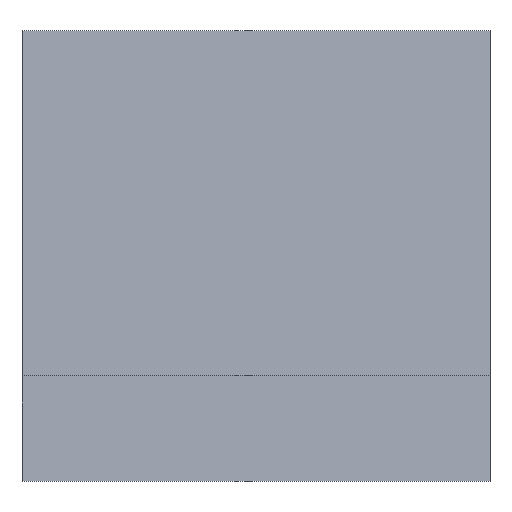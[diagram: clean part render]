
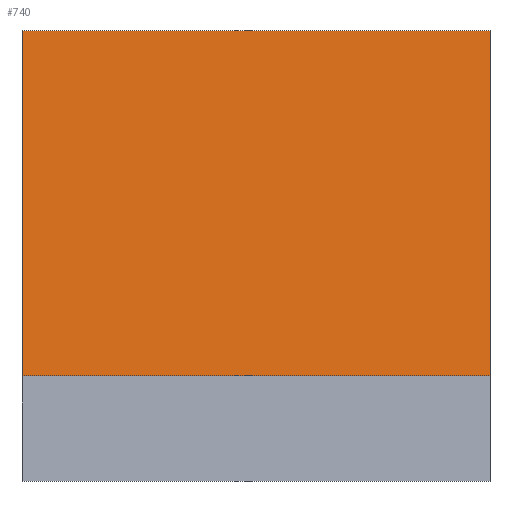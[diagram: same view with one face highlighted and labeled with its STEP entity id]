
A CAD part, front view. The second image highlights one B-rep face of the part: STEP entity #740.
In plain terms, the highlighted planar face has unit normal (0, -0.995, 0.104).
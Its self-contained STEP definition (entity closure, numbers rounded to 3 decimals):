
#32 = PLANE('',#33);
#33 = AXIS2_PLACEMENT_3D('',#34,#35,#36);
#34 = CARTESIAN_POINT('',(1.,-0.443,19.75));
#35 = DIRECTION('',(1.,-0.,-0.));
#36 = DIRECTION('',(0.,0.,-1.));
#113 = VERTEX_POINT('',#114);
#114 = CARTESIAN_POINT('',(1.,-5.169,-14.75));
#128 = PLANE('',#129);
#129 = AXIS2_PLACEMENT_3D('',#130,#131,#132);
#130 = CARTESIAN_POINT('',(1.,-5.669,-14.75));
#131 = DIRECTION('',(-0.,-0.,-1.));
#132 = DIRECTION('',(0.,-1.,0.));
#140 = EDGE_CURVE('',#113,#141,#143,.T.);
#141 = VERTEX_POINT('',#142);
#142 = CARTESIAN_POINT('',(1.,-3.619,0.));
#143 = SURFACE_CURVE('',#144,(#148,#155),.PCURVE_S1.);
#144 = LINE('',#145,#146);
#145 = CARTESIAN_POINT('',(1.,-5.59,-18.75));
#146 = VECTOR('',#147,1.);
#147 = DIRECTION('',(-0.,0.105,0.995));
#148 = PCURVE('',#32,#149);
#149 = DEFINITIONAL_REPRESENTATION('',(#150),#154);
#150 = LINE('',#151,#152);
#151 = CARTESIAN_POINT('',(38.5,-5.147));
#152 = VECTOR('',#153,1.);
#153 = DIRECTION('',(-0.995,0.105));
#154 = ( GEOMETRIC_REPRESENTATION_CONTEXT(2) 
PARAMETRIC_REPRESENTATION_CONTEXT() REPRESENTATION_CONTEXT('2D SPACE',''
  ) );
#155 = PCURVE('',#156,#161);
#156 = PLANE('',#157);
#157 = AXIS2_PLACEMENT_3D('',#158,#159,#160);
#158 = CARTESIAN_POINT('',(1.,-5.59,-18.75));
#159 = DIRECTION('',(0.,0.995,-0.105));
#160 = DIRECTION('',(0.,-0.105,-0.995));
#161 = DEFINITIONAL_REPRESENTATION('',(#162),#166);
#162 = LINE('',#163,#164);
#163 = CARTESIAN_POINT('',(-0.,0.));
#164 = VECTOR('',#165,1.);
#165 = DIRECTION('',(-1.,0.));
#166 = ( GEOMETRIC_REPRESENTATION_CONTEXT(2) 
PARAMETRIC_REPRESENTATION_CONTEXT() REPRESENTATION_CONTEXT('2D SPACE',''
  ) );
#184 = PLANE('',#185);
#185 = AXIS2_PLACEMENT_3D('',#186,#187,#188);
#186 = CARTESIAN_POINT('',(-400.,388.,0.));
#187 = DIRECTION('',(0.,0.,1.));
#188 = DIRECTION('',(-1.,-0.,0.));
#463 = PLANE('',#464);
#464 = AXIS2_PLACEMENT_3D('',#465,#466,#467);
#465 = CARTESIAN_POINT('',(21.,-0.443,19.75));
#466 = DIRECTION('',(1.,-0.,-0.));
#467 = DIRECTION('',(0.,0.,-1.));
#695 = EDGE_CURVE('',#696,#141,#698,.T.);
#696 = VERTEX_POINT('',#697);
#697 = CARTESIAN_POINT('',(21.,-3.619,0.));
#698 = SURFACE_CURVE('',#699,(#703,#710),.PCURVE_S1.);
#699 = LINE('',#700,#701);
#700 = CARTESIAN_POINT('',(-199.5,-3.619,0.));
#701 = VECTOR('',#702,1.);
#702 = DIRECTION('',(-1.,-0.,0.));
#703 = PCURVE('',#184,#704);
#704 = DEFINITIONAL_REPRESENTATION('',(#705),#709);
#705 = LINE('',#706,#707);
#706 = CARTESIAN_POINT('',(-200.5,391.619));
#707 = VECTOR('',#708,1.);
#708 = DIRECTION('',(1.,-0.));
#709 = ( GEOMETRIC_REPRESENTATION_CONTEXT(2) 
PARAMETRIC_REPRESENTATION_CONTEXT() REPRESENTATION_CONTEXT('2D SPACE',''
  ) );
#710 = PCURVE('',#156,#711);
#711 = DEFINITIONAL_REPRESENTATION('',(#712),#716);
#712 = LINE('',#713,#714);
#713 = CARTESIAN_POINT('',(-18.853,200.5));
#714 = VECTOR('',#715,1.);
#715 = DIRECTION('',(-0.,1.));
#716 = ( GEOMETRIC_REPRESENTATION_CONTEXT(2) 
PARAMETRIC_REPRESENTATION_CONTEXT() REPRESENTATION_CONTEXT('2D SPACE',''
  ) );
#740 = ADVANCED_FACE('',(#741),#156,.F.);
#741 = FACE_BOUND('',#742,.T.);
#742 = EDGE_LOOP('',(#743,#744,#767,#788));
#743 = ORIENTED_EDGE('',*,*,#140,.F.);
#744 = ORIENTED_EDGE('',*,*,#745,.T.);
#745 = EDGE_CURVE('',#113,#746,#748,.T.);
#746 = VERTEX_POINT('',#747);
#747 = CARTESIAN_POINT('',(21.,-5.169,-14.75));
#748 = SURFACE_CURVE('',#749,(#753,#760),.PCURVE_S1.);
#749 = LINE('',#750,#751);
#750 = CARTESIAN_POINT('',(1.,-5.169,-14.75));
#751 = VECTOR('',#752,1.);
#752 = DIRECTION('',(1.,-0.,-0.));
#753 = PCURVE('',#156,#754);
#754 = DEFINITIONAL_REPRESENTATION('',(#755),#759);
#755 = LINE('',#756,#757);
#756 = CARTESIAN_POINT('',(-4.022,0.));
#757 = VECTOR('',#758,1.);
#758 = DIRECTION('',(-0.,-1.));
#759 = ( GEOMETRIC_REPRESENTATION_CONTEXT(2) 
PARAMETRIC_REPRESENTATION_CONTEXT() REPRESENTATION_CONTEXT('2D SPACE',''
  ) );
#760 = PCURVE('',#128,#761);
#761 = DEFINITIONAL_REPRESENTATION('',(#762),#766);
#762 = LINE('',#763,#764);
#763 = CARTESIAN_POINT('',(-0.5,0.));
#764 = VECTOR('',#765,1.);
#765 = DIRECTION('',(-0.,-1.));
#766 = ( GEOMETRIC_REPRESENTATION_CONTEXT(2) 
PARAMETRIC_REPRESENTATION_CONTEXT() REPRESENTATION_CONTEXT('2D SPACE',''
  ) );
#767 = ORIENTED_EDGE('',*,*,#768,.T.);
#768 = EDGE_CURVE('',#746,#696,#769,.T.);
#769 = SURFACE_CURVE('',#770,(#774,#781),.PCURVE_S1.);
#770 = LINE('',#771,#772);
#771 = CARTESIAN_POINT('',(21.,-5.59,-18.75));
#772 = VECTOR('',#773,1.);
#773 = DIRECTION('',(-0.,0.105,0.995));
#774 = PCURVE('',#156,#775);
#775 = DEFINITIONAL_REPRESENTATION('',(#776),#780);
#776 = LINE('',#777,#778);
#777 = CARTESIAN_POINT('',(-0.,-20.));
#778 = VECTOR('',#779,1.);
#779 = DIRECTION('',(-1.,0.));
#780 = ( GEOMETRIC_REPRESENTATION_CONTEXT(2) 
PARAMETRIC_REPRESENTATION_CONTEXT() REPRESENTATION_CONTEXT('2D SPACE',''
  ) );
#781 = PCURVE('',#463,#782);
#782 = DEFINITIONAL_REPRESENTATION('',(#783),#787);
#783 = LINE('',#784,#785);
#784 = CARTESIAN_POINT('',(38.5,-5.147));
#785 = VECTOR('',#786,1.);
#786 = DIRECTION('',(-0.995,0.105));
#787 = ( GEOMETRIC_REPRESENTATION_CONTEXT(2) 
PARAMETRIC_REPRESENTATION_CONTEXT() REPRESENTATION_CONTEXT('2D SPACE',''
  ) );
#788 = ORIENTED_EDGE('',*,*,#695,.T.);
